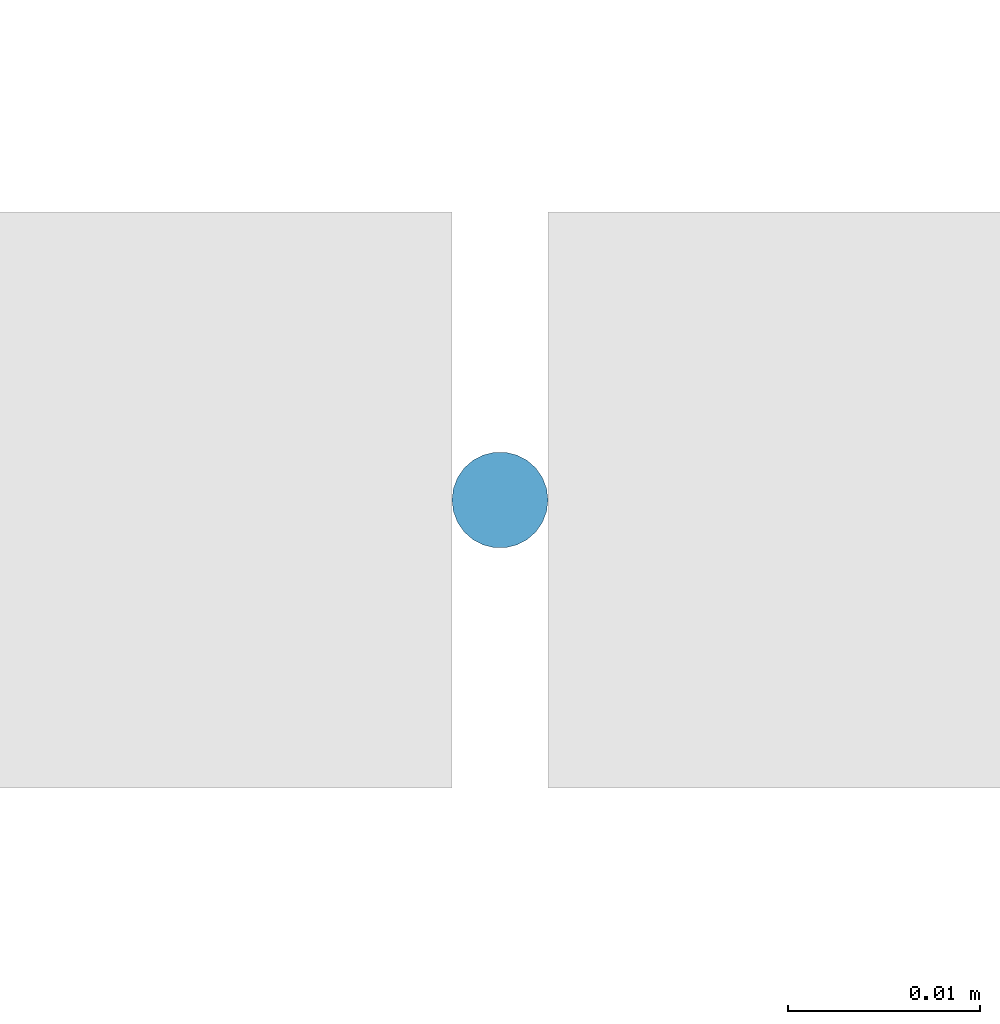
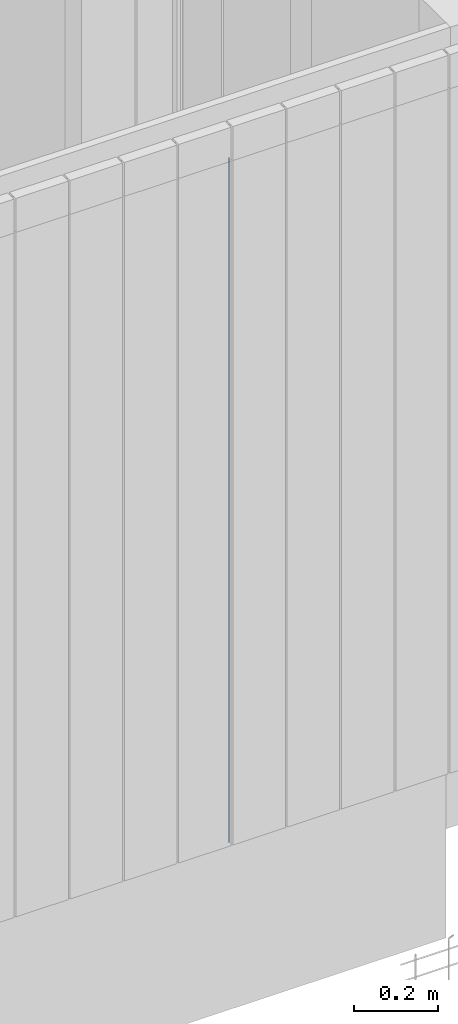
# One storey, part 17 of 81: 1 member, 1 element without a shape of its own.
"""IFC2X3 building model written with IfcOpenShell, lengths in metres."""

from ifc_helpers import new_model, entity, si_unit, converted_unit, derived_unit, direction, frame, frame_2d, origin, place, context, subcontext, project, spatial, circle, extrude, source, transform, mapped, material, type_object, type_shapes, element, aggregate, save


model = new_model("IFC2X3")

# Units and contexts
model_context = context("Model", 3, precision=1e-05, world=origin(), true_north=direction((6.12303176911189e-17, 1.0)))
body_context = subcontext(model_context, "Body", "Model", "MODEL_VIEW")
ifc_project = project(units=[si_unit("LENGTHUNIT", "METRE"), si_unit("AREAUNIT", "SQUARE_METRE"), si_unit("VOLUMEUNIT", "CUBIC_METRE"), converted_unit("PLANEANGLEUNIT", "DEGREE", entity("IfcRatioMeasure", 0.0174532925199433), si_unit("PLANEANGLEUNIT", "RADIAN"), dimensions=[0, 0, 0, 0, 0, 0, 0]), si_unit("MASSUNIT", "GRAM", prefix="KILO"), derived_unit("MASSDENSITYUNIT", [(si_unit("MASSUNIT", "GRAM", prefix="KILO"), 1), (si_unit("LENGTHUNIT", "METRE"), -3)]), derived_unit("MOMENTOFINERTIAUNIT", [(si_unit("LENGTHUNIT", "METRE"), 4)]), si_unit("TIMEUNIT", "SECOND"), si_unit("FREQUENCYUNIT", "HERTZ"), si_unit("THERMODYNAMICTEMPERATUREUNIT", "DEGREE_CELSIUS"), derived_unit("THERMALTRANSMITTANCEUNIT", [(si_unit("MASSUNIT", "GRAM", prefix="KILO"), 1), (si_unit("THERMODYNAMICTEMPERATUREUNIT", "KELVIN"), -1), (si_unit("TIMEUNIT", "SECOND"), -3)]), derived_unit("VOLUMETRICFLOWRATEUNIT", [(si_unit("LENGTHUNIT", "METRE"), 3), (si_unit("TIMEUNIT", "SECOND"), -1)]), si_unit("ELECTRICCURRENTUNIT", "AMPERE"), si_unit("ELECTRICVOLTAGEUNIT", "VOLT"), si_unit("POWERUNIT", "WATT"), si_unit("FORCEUNIT", "NEWTON", prefix="KILO"), si_unit("ILLUMINANCEUNIT", "LUX"), si_unit("LUMINOUSFLUXUNIT", "LUMEN"), si_unit("LUMINOUSINTENSITYUNIT", "CANDELA"), derived_unit("USERDEFINED", [(si_unit("MASSUNIT", "GRAM", prefix="KILO"), -1), (si_unit("LENGTHUNIT", "METRE"), -2), (si_unit("TIMEUNIT", "SECOND"), 3), (si_unit("LUMINOUSFLUXUNIT", "LUMEN"), 1)]), derived_unit("LINEARVELOCITYUNIT", [(si_unit("LENGTHUNIT", "METRE"), 1), (si_unit("TIMEUNIT", "SECOND"), -1)]), si_unit("PRESSUREUNIT", "PASCAL"), derived_unit("USERDEFINED", [(si_unit("LENGTHUNIT", "METRE"), -2), (si_unit("MASSUNIT", "GRAM", prefix="KILO"), 1), (si_unit("TIMEUNIT", "SECOND"), -2)]), derived_unit("LINEARFORCEUNIT", [(si_unit("MASSUNIT", "GRAM", prefix="KILO"), 1), (si_unit("LENGTHUNIT", "METRE"), 1), (si_unit("TIMEUNIT", "SECOND"), -2), (si_unit("LENGTHUNIT", "METRE"), -1)]), derived_unit("PLANARFORCEUNIT", [(si_unit("MASSUNIT", "GRAM", prefix="KILO"), 1), (si_unit("LENGTHUNIT", "METRE"), 1), (si_unit("TIMEUNIT", "SECOND"), -2), (si_unit("LENGTHUNIT", "METRE"), -2)])], contexts=[model_context])

# Site, building, storey
site_placement = place(None, origin())
site = spatial("IfcSite", under=ifc_project, at=site_placement, Name="Surface", CompositionType="ELEMENT")
building_placement = place(site_placement, origin())
building = spatial("IfcBuilding", under=site, at=building_placement, CompositionType="ELEMENT")
storey_placement = place(building_placement, origin())
storey = spatial("IfcBuildingStorey", under=building, at=storey_placement, Name="01 RDC", CompositionType="ELEMENT", Elevation=-1.94916083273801e-14)

# Curtain wall, member
curtain_wall_type = type_object("IfcCurtainWallType", Name="Mur-rideau:1m x 2m", PredefinedType="NOTDEFINED")
curtain_wall_placement = place(storey_placement, origin())
curtain_wall = element("IfcCurtainWall", 1, at=curtain_wall_placement, inside=storey, type_object=curtain_wall_type, Name="Mur-rideau:1m x 2m", ObjectType="Mur-rideau:1m x 2m")
ifc_material = material(Name="Aluminium - Vert")
member_type = type_object("IfcMemberType", Name="Meneau circulaire:R-30 mm", PredefinedType="MULLION", material=ifc_material)
shared_shape = source(origin(), body_context, "Body", "SweptSolid", [
    extrude(circle(Radius=0.0025, at=frame_2d((-8.37005581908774e-27, 3.23452349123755e-15), x_axis=(1.0, 0.0))), frame((0.0, 0.0, -2.0), z_axis=(0.0, 0.0, 1.0), x_axis=(-1.0, 0.0, 0.0)), (0.0, 0.0, 1.0), 2.0),
])
type_shapes(member_type, [shared_shape])
member_placement = place(storey_placement, frame((7.11906158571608, -6.30971095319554, 0.3), z_axis=(0.0, 0.0, -1.0), x_axis=(-1.0, 0.0, 0.0)))
member = element("IfcMember", 2, at=member_placement, type_object=member_type, material=ifc_material, Name="Meneau circulaire:R-30 mm", ObjectType="Meneau circulaire:R-30 mm", context=body_context, shape_type="MappedRepresentation", body=[
    mapped(shared_shape, transform((0.0, 0.0, 0.0), scale=1.0)),
])
aggregate(curtain_wall, [member])

save(model, "model.ifc")
